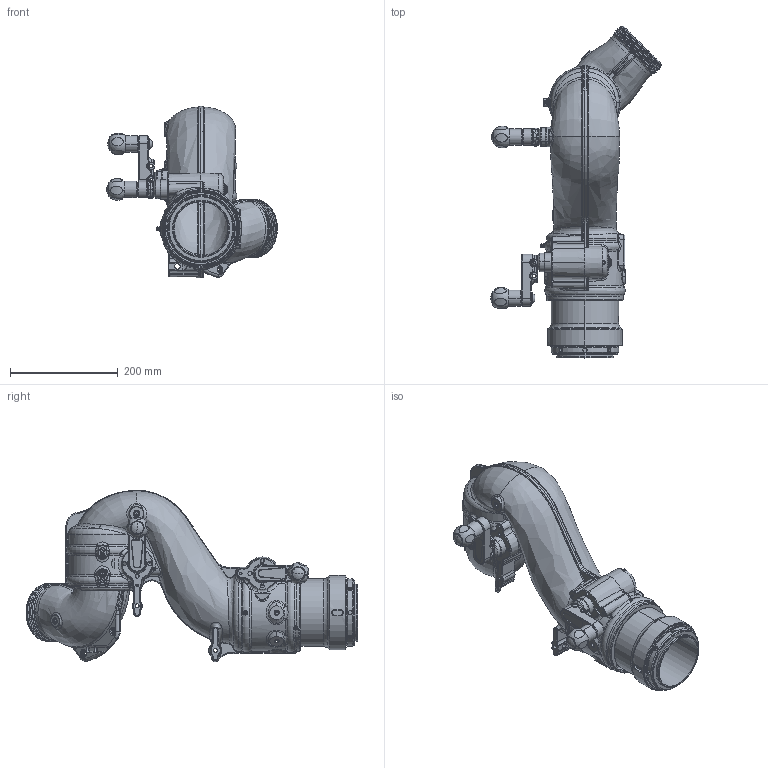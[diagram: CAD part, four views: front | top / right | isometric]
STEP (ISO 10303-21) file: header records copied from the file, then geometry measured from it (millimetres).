
FILE_DESCRIPTION (( 'STEP AP203' ), '1' );
FILE_NAME ('Y5-DX1A-Z.STEP', '2016-06-06T18:59:03', ( '' ), ( '' ), 'SwSTEP 2.0', 'SolidWorks 2015', '' );
FILE_SCHEMA (( 'CONFIG_CONTROL_DESIGN' ));
Products named in the file (1): Y5-DX1A-Z
Bounding box: 317.53 x 616.76 x 318.53 mm (x, y, z)
Surface area: 601070.4 mm2 (no closed solid volume)
Topology: 0 solids, 49 shells, 1757 faces, 4798 edges, 2991 vertices
Faces by surface type: bspline 420, plane 352, cylinder 329, cone 320, torus 288, sphere 48
Entity records: 137385 total; most frequent: CARTESIAN_POINT 96792, ORIENTED_EDGE 8549, DIRECTION 7939, EDGE_CURVE 4777, AXIS2_PLACEMENT_3D 3315, VERTEX_POINT 2987, CIRCLE 1977, EDGE_LOOP 1876
